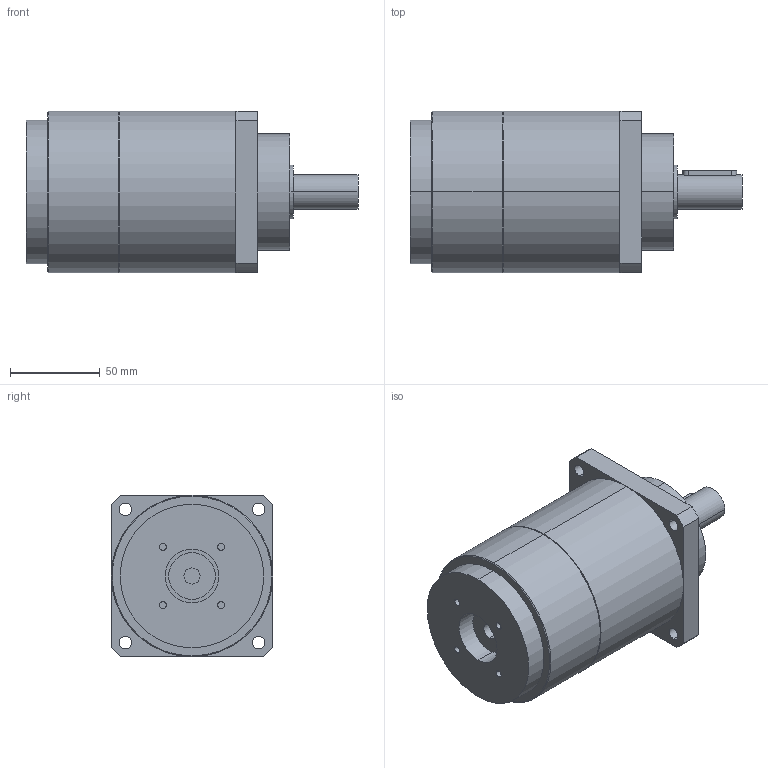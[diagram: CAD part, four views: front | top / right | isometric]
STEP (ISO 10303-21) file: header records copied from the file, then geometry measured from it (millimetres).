
FILE_DESCRIPTION(('CoCreate Modeling STEP Export'),'2;1');
FILE_NAME('GPT90_ig-9-12-16-20-25-28-35-40-50-70-100_19_B5T_9_P24.stp','2015-02-04T11:33:54',(''),(''),'CoCreate Modeling STEP processor for AP214 (Solid Model)','CoCreate Modeling 16.00C 25-Feb-2009 (C) Parametric Technology GmbH','');
FILE_SCHEMA(('AUTOMOTIVE_DESIGN { 1 0 10303 214 1 1 1 1 }'));
Length unit declared in the file: millimetre
Products named in the file (2): GPT90_ig-9-12-16-20-25-28-35-40-50-70-100_19_B5T_9_P24
Assembly tree (1 placements, depth 2):
  GPT90_ig-9-12-16-20-25-28-35-40-50-70-100_19_B5T_9_P24
    GPT90_ig-9-12-16-20-25-28-35-40-50-70-100_19_B5T_9_P24
Bounding box: 185 x 90 x 90 mm (x, y, z)
Volume: 884568.4 mm3; surface area: 63304.7 mm2
Topology: 1 solids, 1 shells, 72 faces, 182 edges, 125 vertices
Faces by surface type: cylinder 42, plane 26, cone 4
Entity records: 2313 total; most frequent: CARTESIAN_POINT 692, ORIENTED_EDGE 364, DIRECTION 272, EDGE_CURVE 182, VERTEX_POINT 125, AXIS2_PLACEMENT_3D 102, EDGE_LOOP 93, FACE_OUTER_BOUND 72
